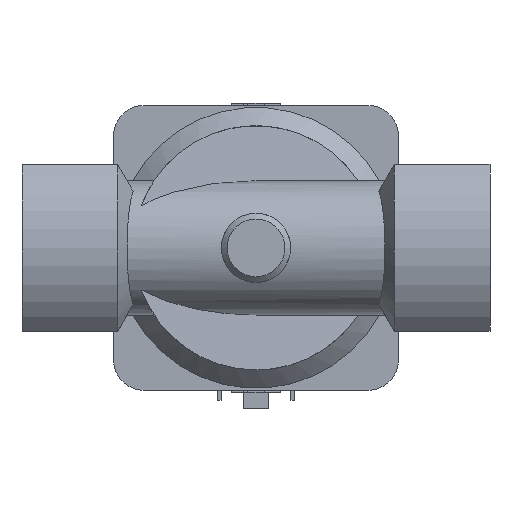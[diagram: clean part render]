
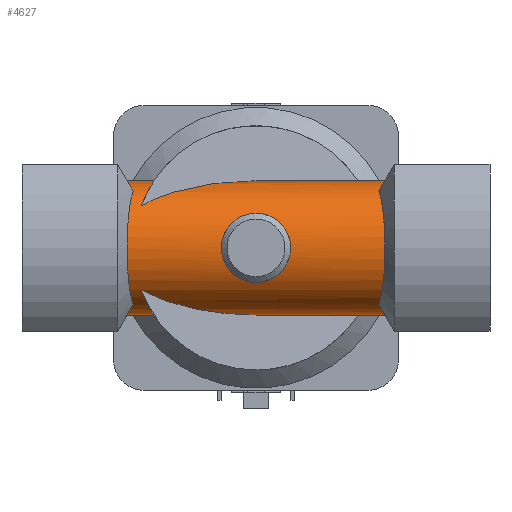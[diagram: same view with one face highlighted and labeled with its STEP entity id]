
A CAD part, front view. The second image highlights one B-rep face of the part: STEP entity #4627.
In plain terms, the highlighted cylindrical face has radius 16.5 mm (diameter 33 mm), a partial arc.
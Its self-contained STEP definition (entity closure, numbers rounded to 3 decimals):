
#430=LINE('',#7510,#852);
#431=LINE('',#7522,#853);
#432=LINE('',#7541,#854);
#433=LINE('',#7554,#855);
#852=VECTOR('',#6098,1000.);
#853=VECTOR('',#6101,1000.);
#854=VECTOR('',#6106,1000.);
#855=VECTOR('',#6109,1000.);
#1274=B_SPLINE_CURVE_WITH_KNOTS('',3,(#7495,#7496,#7497,#7498,#7499,#7500,
#7501,#7502,#7503,#7504,#7505,#7506),.UNSPECIFIED.,.F.,.F.,(4,1,1,1,1,1,
1,1,1,4),(0.001,0.009,0.014,0.016,
0.018,0.022,0.024,0.026,
0.03,0.034),.UNSPECIFIED.);
#1275=B_SPLINE_CURVE_WITH_KNOTS('',3,(#7512,#7513,#7514,#7515,#7516,#7517,
#7518),.UNSPECIFIED.,.F.,.F.,(4,1,1,1,4),(0.,0.004,
0.007,0.011,0.015),.UNSPECIFIED.);
#1276=B_SPLINE_CURVE_WITH_KNOTS('',3,(#7526,#7527,#7528,#7529,#7530,#7531,
#7532,#7533,#7534,#7535,#7536,#7537),.UNSPECIFIED.,.F.,.F.,(4,1,1,1,1,1,
1,1,1,4),(0.001,0.009,0.014,0.016,
0.018,0.022,0.024,0.026,
0.03,0.034),.UNSPECIFIED.);
#1277=B_SPLINE_CURVE_WITH_KNOTS('',3,(#7545,#7546,#7547,#7548,#7549,#7550,
#7551,#7552),.UNSPECIFIED.,.F.,.F.,(4,1,1,1,1,4),(0.002,0.006,
0.009,0.011,0.013,0.017),
 .UNSPECIFIED.);
#1278=B_SPLINE_CURVE_WITH_KNOTS('',3,(#7555,#7556,#7557,#7558,#7559,#7560,
#7561,#7562,#7563,#7564,#7565,#7566,#7567,#7568,#7569,#7570,#7571,#7572,
#7573,#7574),.UNSPECIFIED.,.T.,.F.,(1,1,1,1,1,1,1,1,1,1,1,1,1,1,1,1,1,1,
1,1,1,1,1,1),(-0.007,-0.003,-0.002,
0.,0.003,0.007,0.01,0.014,
0.017,0.02,0.024,0.027,
0.03,0.034,0.037,0.041,
0.044,0.047,0.051,0.052,
0.054,0.057,0.061,0.064),
 .UNSPECIFIED.);
#1327=ORIENTED_EDGE('',*,*,#2665,.F.);
#1328=ORIENTED_EDGE('',*,*,#2666,.F.);
#1329=ORIENTED_EDGE('',*,*,#2667,.F.);
#1330=ORIENTED_EDGE('',*,*,#2668,.F.);
#1331=ORIENTED_EDGE('',*,*,#2669,.T.);
#1332=ORIENTED_EDGE('',*,*,#2670,.F.);
#1333=ORIENTED_EDGE('',*,*,#2671,.F.);
#1334=ORIENTED_EDGE('',*,*,#2672,.T.);
#1335=ORIENTED_EDGE('',*,*,#2673,.T.);
#1336=ORIENTED_EDGE('',*,*,#2674,.T.);
#1337=ORIENTED_EDGE('',*,*,#2675,.F.);
#1338=ORIENTED_EDGE('',*,*,#2676,.F.);
#1339=ORIENTED_EDGE('',*,*,#2677,.T.);
#1340=ORIENTED_EDGE('',*,*,#2678,.F.);
#1341=ORIENTED_EDGE('',*,*,#2679,.F.);
#2665=EDGE_CURVE('',#3334,#3335,#3795,.F.);
#2666=EDGE_CURVE('',#3336,#3334,#1274,.T.);
#2667=EDGE_CURVE('',#3337,#3336,#3796,.F.);
#2668=EDGE_CURVE('',#3338,#3337,#430,.T.);
#2669=EDGE_CURVE('',#3338,#3339,#1275,.T.);
#2670=EDGE_CURVE('',#3340,#3339,#3797,.F.);
#2671=EDGE_CURVE('',#3341,#3340,#431,.T.);
#2672=EDGE_CURVE('',#3341,#3342,#3798,.T.);
#2673=EDGE_CURVE('',#3342,#3343,#1276,.T.);
#2674=EDGE_CURVE('',#3343,#3344,#3799,.T.);
#2675=EDGE_CURVE('',#3345,#3344,#432,.T.);
#2676=EDGE_CURVE('',#3346,#3345,#3800,.F.);
#2677=EDGE_CURVE('',#3346,#3347,#1277,.T.);
#2678=EDGE_CURVE('',#3335,#3347,#433,.T.);
#2679=EDGE_CURVE('',#3348,#3348,#1278,.T.);
#3334=VERTEX_POINT('',#7493);
#3335=VERTEX_POINT('',#7494);
#3336=VERTEX_POINT('',#7507);
#3337=VERTEX_POINT('',#7509);
#3338=VERTEX_POINT('',#7511);
#3339=VERTEX_POINT('',#7519);
#3340=VERTEX_POINT('',#7521);
#3341=VERTEX_POINT('',#7523);
#3342=VERTEX_POINT('',#7525);
#3343=VERTEX_POINT('',#7538);
#3344=VERTEX_POINT('',#7540);
#3345=VERTEX_POINT('',#7542);
#3346=VERTEX_POINT('',#7544);
#3347=VERTEX_POINT('',#7553);
#3348=VERTEX_POINT('',#7575);
#3795=ELLIPSE('',#5603,19.053,16.5);
#3796=ELLIPSE('',#5604,19.053,16.5);
#3797=ELLIPSE('',#5605,39.788,16.5);
#3798=ELLIPSE('',#5606,19.053,16.5);
#3799=ELLIPSE('',#5607,19.053,16.5);
#3800=ELLIPSE('',#5608,39.788,16.5);
#3811=EDGE_LOOP('',(#1327,#1328,#1329,#1330,#1331,#1332,#1333,#1334,#1335,
#1336,#1337,#1338,#1339,#1340));
#3812=EDGE_LOOP('',(#1341));
#4181=FACE_BOUND('',#3811,.T.);
#4182=FACE_BOUND('',#3812,.T.);
#4551=CYLINDRICAL_SURFACE('',#5602,16.5);
#4627=ADVANCED_FACE('',(#4181,#4182),#4551,.T.);
#5602=AXIS2_PLACEMENT_3D('',#7491,#6092,#6093);
#5603=AXIS2_PLACEMENT_3D('',#7492,#6094,#6095);
#5604=AXIS2_PLACEMENT_3D('',#7508,#6096,#6097);
#5605=AXIS2_PLACEMENT_3D('',#7520,#6099,#6100);
#5606=AXIS2_PLACEMENT_3D('',#7524,#6102,#6103);
#5607=AXIS2_PLACEMENT_3D('',#7539,#6104,#6105);
#5608=AXIS2_PLACEMENT_3D('',#7543,#6107,#6108);
#6092=DIRECTION('',(-1.,0.,0.));
#6093=DIRECTION('',(0.,0.,1.));
#6094=DIRECTION('',(0.866,0.,0.5));
#6095=DIRECTION('',(-0.5,0.,0.866));
#6096=DIRECTION('',(0.866,0.,-0.5));
#6097=DIRECTION('',(-0.5,0.,-0.866));
#6098=DIRECTION('',(-1.,0.,0.));
#6099=DIRECTION('',(0.415,-0.91,0.));
#6100=DIRECTION('',(-0.91,-0.415,0.));
#6101=DIRECTION('',(-1.,0.,0.));
#6102=DIRECTION('',(-0.866,0.,-0.5));
#6103=DIRECTION('',(-0.5,0.,0.866));
#6104=DIRECTION('',(-0.866,0.,0.5));
#6105=DIRECTION('',(-0.5,0.,-0.866));
#6106=DIRECTION('',(1.,0.,0.));
#6107=DIRECTION('',(0.415,-0.91,0.));
#6108=DIRECTION('',(-0.91,-0.415,0.));
#6109=DIRECTION('',(1.,0.,0.));
#7491=CARTESIAN_POINT('',(35.,0.,0.));
#7492=CARTESIAN_POINT('',(-22.164,0.,0.));
#7493=CARTESIAN_POINT('',(-30.223,-8.798,13.959));
#7494=CARTESIAN_POINT('',(-31.691,0.,16.5));
#7495=CARTESIAN_POINT('',(-30.223,-8.798,-13.959));
#7496=CARTESIAN_POINT('',(-30.692,-11.121,-12.494));
#7497=CARTESIAN_POINT('',(-31.245,-14.054,-9.414));
#7498=CARTESIAN_POINT('',(-31.579,-15.883,-4.831));
#7499=CARTESIAN_POINT('',(-31.674,-16.409,-2.113));
#7500=CARTESIAN_POINT('',(-31.707,-16.589,0.702));
#7501=CARTESIAN_POINT('',(-31.644,-16.239,3.461));
#7502=CARTESIAN_POINT('',(-31.485,-15.365,6.133));
#7503=CARTESIAN_POINT('',(-31.267,-14.183,8.629));
#7504=CARTESIAN_POINT('',(-30.878,-12.111,11.463));
#7505=CARTESIAN_POINT('',(-30.459,-9.968,13.221));
#7506=CARTESIAN_POINT('',(-30.223,-8.798,13.959));
#7507=CARTESIAN_POINT('',(-30.223,-8.798,-13.959));
#7508=CARTESIAN_POINT('',(-22.164,0.,0.));
#7509=CARTESIAN_POINT('',(-31.691,0.,-16.5));
#7510=CARTESIAN_POINT('',(35.,0.,-16.5));
#7511=CARTESIAN_POINT('',(-25.055,0.,-16.5));
#7512=CARTESIAN_POINT('',(-25.055,0.,-16.5));
#7513=CARTESIAN_POINT('',(-25.055,-1.27,-16.5));
#7514=CARTESIAN_POINT('',(-25.248,-3.75,-16.212));
#7515=CARTESIAN_POINT('',(-26.023,-7.272,-14.965));
#7516=CARTESIAN_POINT('',(-27.071,-10.361,-13.009));
#7517=CARTESIAN_POINT('',(-27.8,-12.065,-11.32));
#7518=CARTESIAN_POINT('',(-28.148,-12.828,-10.378));
#7519=CARTESIAN_POINT('',(-28.148,-12.828,-10.378));
#7520=CARTESIAN_POINT('',(0.,0.,0.));
#7521=CARTESIAN_POINT('',(0.,0.,-16.5));
#7522=CARTESIAN_POINT('',(35.,0.,-16.5));
#7523=CARTESIAN_POINT('',(31.691,0.,-16.5));
#7524=CARTESIAN_POINT('',(22.164,0.,0.));
#7525=CARTESIAN_POINT('',(30.223,-8.798,-13.959));
#7526=CARTESIAN_POINT('',(30.223,-8.798,-13.959));
#7527=CARTESIAN_POINT('',(30.692,-11.121,-12.494));
#7528=CARTESIAN_POINT('',(31.245,-14.054,-9.414));
#7529=CARTESIAN_POINT('',(31.579,-15.883,-4.831));
#7530=CARTESIAN_POINT('',(31.674,-16.409,-2.113));
#7531=CARTESIAN_POINT('',(31.707,-16.589,0.702));
#7532=CARTESIAN_POINT('',(31.644,-16.239,3.461));
#7533=CARTESIAN_POINT('',(31.485,-15.365,6.133));
#7534=CARTESIAN_POINT('',(31.267,-14.183,8.629));
#7535=CARTESIAN_POINT('',(30.878,-12.111,11.463));
#7536=CARTESIAN_POINT('',(30.459,-9.968,13.221));
#7537=CARTESIAN_POINT('',(30.223,-8.798,13.959));
#7538=CARTESIAN_POINT('',(30.223,-8.798,13.959));
#7539=CARTESIAN_POINT('',(22.164,0.,0.));
#7540=CARTESIAN_POINT('',(31.691,0.,16.5));
#7541=CARTESIAN_POINT('',(-35.,0.,16.5));
#7542=CARTESIAN_POINT('',(0.,0.,16.5));
#7543=CARTESIAN_POINT('',(0.,0.,0.));
#7544=CARTESIAN_POINT('',(-28.148,-12.828,10.378));
#7545=CARTESIAN_POINT('',(-28.148,-12.828,10.378));
#7546=CARTESIAN_POINT('',(-27.803,-12.07,11.314));
#7547=CARTESIAN_POINT('',(-27.07,-10.36,13.012));
#7548=CARTESIAN_POINT('',(-26.199,-7.785,14.637));
#7549=CARTESIAN_POINT('',(-25.64,-5.537,15.58));
#7550=CARTESIAN_POINT('',(-25.199,-3.129,16.285));
#7551=CARTESIAN_POINT('',(-25.055,-1.272,16.5));
#7552=CARTESIAN_POINT('',(-25.055,0.,16.5));
#7553=CARTESIAN_POINT('',(-25.055,0.,16.5));
#7554=CARTESIAN_POINT('',(-35.,0.,16.5));
#7555=CARTESIAN_POINT('',(-1.723,-14.215,-8.381));
#7556=CARTESIAN_POINT('',(0.581,-14.069,-8.618));
#7557=CARTESIAN_POINT('',(3.386,-14.436,-8.033));
#7558=CARTESIAN_POINT('',(6.151,-15.374,-6.167));
#7559=CARTESIAN_POINT('',(8.028,-16.25,-3.405));
#7560=CARTESIAN_POINT('',(8.733,-16.623,-0.024));
#7561=CARTESIAN_POINT('',(8.04,-16.256,3.384));
#7562=CARTESIAN_POINT('',(6.158,-15.377,6.159));
#7563=CARTESIAN_POINT('',(3.406,-14.441,8.025));
#7564=CARTESIAN_POINT('',(0.032,-13.995,8.733));
#7565=CARTESIAN_POINT('',(-3.373,-14.43,8.044));
#7566=CARTESIAN_POINT('',(-6.143,-15.371,6.175));
#7567=CARTESIAN_POINT('',(-8.027,-16.249,3.41));
#7568=CARTESIAN_POINT('',(-8.733,-16.623,0.025));
#7569=CARTESIAN_POINT('',(-8.043,-16.258,-3.378));
#7570=CARTESIAN_POINT('',(-6.159,-15.375,-6.164));
#7571=CARTESIAN_POINT('',(-3.845,-14.595,-7.72));
#7572=CARTESIAN_POINT('',(-1.723,-14.215,-8.381));
#7573=CARTESIAN_POINT('',(0.581,-14.069,-8.618));
#7574=CARTESIAN_POINT('',(3.386,-14.436,-8.033));
#7575=CARTESIAN_POINT('',(0.,-14.142,-8.5));
